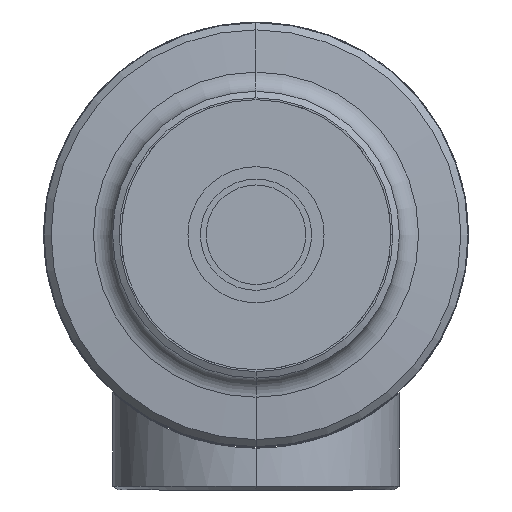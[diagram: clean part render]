
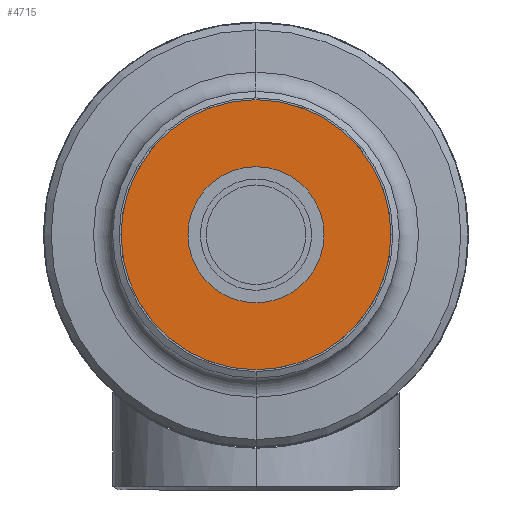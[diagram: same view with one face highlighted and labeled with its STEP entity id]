
A CAD part, front view. The second image highlights one B-rep face of the part: STEP entity #4715.
In plain terms, the highlighted planar face has unit normal (0, -1, 0).
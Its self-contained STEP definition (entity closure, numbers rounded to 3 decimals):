
#667 = CIRCLE ( 'NONE', #668, 52. ) ;
#668 = AXIS2_PLACEMENT_3D ( 'NONE', #669, #670, #671 ) ;
#669 = CARTESIAN_POINT ( 'NONE',  ( 0., -48., 0. ) ) ;
#670 = DIRECTION ( 'NONE',  ( 0., -1., 0. ) ) ;
#671 = DIRECTION ( 'NONE',  ( 0., 0., -1. ) ) ;
#17140 = VERTEX_POINT ( 'NONE', #12302 ) ;
#17424 = VERTEX_POINT ( 'NONE', #12534 ) ;
#17836 = EDGE_CURVE ( 'NONE', #17424, #17140, #12658, .T. ) ;
#3798 = ORIENTED_EDGE ( 'NONE', *, *, #12863, .F. ) ;
#4480 = EDGE_LOOP ( 'NONE', ( #3798, #12344 ) ) ;
#4715 = ADVANCED_FACE ( 'NONE', ( #5263, #5264 ), #5283, .T. ) ;
#5263 = FACE_BOUND ( 'NONE', #4480, .T. ) ;
#5264 = FACE_OUTER_BOUND ( 'NONE', #12101, .T. ) ;
#5283 = PLANE ( 'NONE',  #5284 ) ;
#5284 = AXIS2_PLACEMENT_3D ( 'NONE', #5285, #5286, #5287 ) ;
#5285 = CARTESIAN_POINT ( 'NONE',  ( 0., -48., 0. ) ) ;
#5286 = DIRECTION ( 'NONE',  ( 0., -1., 0. ) ) ;
#5287 = DIRECTION ( 'NONE',  ( 0., 0., -1. ) ) ;
#6151 = EDGE_CURVE ( 'NONE', #17140, #17424, #8171, .T. ) ;
#6353 = VERTEX_POINT ( 'NONE', #8346 ) ;
#6575 = EDGE_CURVE ( 'NONE', #7466, #6353, #10651, .T. ) ;
#7466 = VERTEX_POINT ( 'NONE', #12039 ) ;
#8171 = CIRCLE ( 'NONE', #8172, 120. ) ;
#8172 = AXIS2_PLACEMENT_3D ( 'NONE', #8173, #8174, #8175 ) ;
#8173 = CARTESIAN_POINT ( 'NONE',  ( 0., -48., 0. ) ) ;
#8174 = DIRECTION ( 'NONE',  ( 0., -1., 0. ) ) ;
#8175 = DIRECTION ( 'NONE',  ( 0., 0., -1. ) ) ;
#8346 = CARTESIAN_POINT ( 'NONE',  ( 0., -48., -52. ) ) ;
#10651 = CIRCLE ( 'NONE', #10652, 52. ) ;
#10652 = AXIS2_PLACEMENT_3D ( 'NONE', #10653, #10654, #10655 ) ;
#10653 = CARTESIAN_POINT ( 'NONE',  ( 0., -48., 0. ) ) ;
#10654 = DIRECTION ( 'NONE',  ( 0., -1., 0. ) ) ;
#10655 = DIRECTION ( 'NONE',  ( 0., 0., -1. ) ) ;
#11067 = ORIENTED_EDGE ( 'NONE', *, *, #17836, .T. ) ;
#11579 = ORIENTED_EDGE ( 'NONE', *, *, #6151, .T. ) ;
#12039 = CARTESIAN_POINT ( 'NONE',  ( 0., -48., 52. ) ) ;
#12101 = EDGE_LOOP ( 'NONE', ( #11579, #11067 ) ) ;
#12302 = CARTESIAN_POINT ( 'NONE',  ( 0., -48., 120. ) ) ;
#12344 = ORIENTED_EDGE ( 'NONE', *, *, #6575, .F. ) ;
#12534 = CARTESIAN_POINT ( 'NONE',  ( 0., -48., -120. ) ) ;
#12658 = CIRCLE ( 'NONE', #12659, 120. ) ;
#12659 = AXIS2_PLACEMENT_3D ( 'NONE', #12660, #12661, #12662 ) ;
#12660 = CARTESIAN_POINT ( 'NONE',  ( 0., -48., 0. ) ) ;
#12661 = DIRECTION ( 'NONE',  ( 0., -1., 0. ) ) ;
#12662 = DIRECTION ( 'NONE',  ( 0., 0., -1. ) ) ;
#12863 = EDGE_CURVE ( 'NONE', #6353, #7466, #667, .T. ) ;
